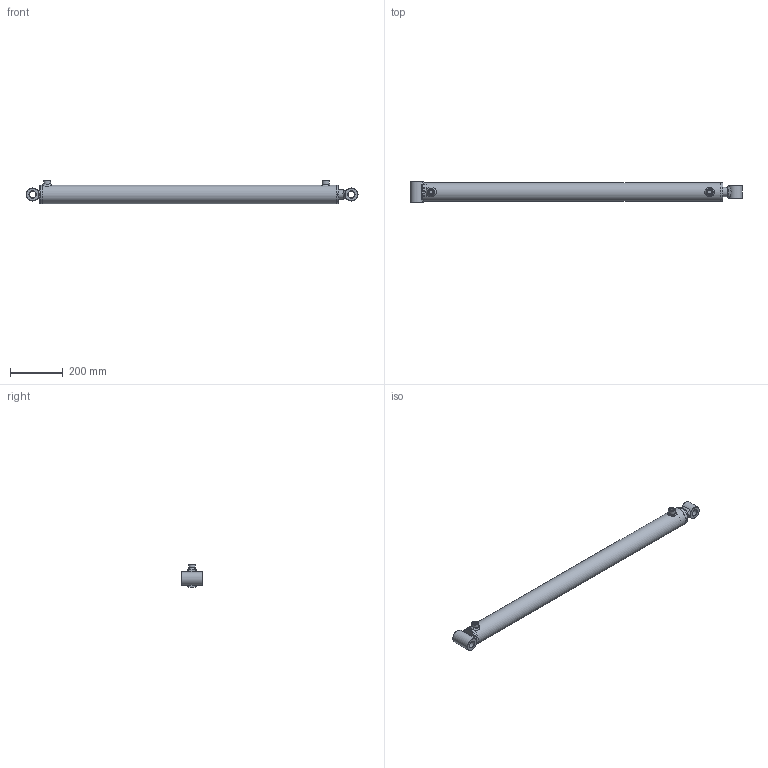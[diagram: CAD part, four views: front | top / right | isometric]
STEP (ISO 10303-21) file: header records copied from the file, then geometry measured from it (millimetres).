
FILE_DESCRIPTION( ( 'Unknown' ), '1' );
FILE_NAME( 'E:/LIBRERIA_3d/CILINDRI/HM2/HM23351000.stp', 'Unknown', ( 'Unknown' ), ( 'Unknown' ), 'PSStep 17.0.49', 'Unknown', ' ' );
FILE_SCHEMA( ( 'AUTOMOTIVE_DESIGN { 1 0 10303 214 1 1 1 1 }' ) );
Length unit declared in the file: millimetre
Products named in the file (26): CT00060020; STL3501000-oa6; Saldatura d'angolo 1-oa4; FTM3501000-oa5; CBSC220600; CG07006035; HM03351000; Saldatura con preparazione 1-oa2; Saldatura d'angolo 1-oa3; CF00060070; CBS0600000; CDA0002015; APG0600000; SBL3531000; Assem1; CB25050050; CB25050080; Saldatura d'angolo 1-oa0; Saldatura d'angolo 2-oa1
Assembly tree (18 placements, depth 4):
  Saldatura d'angolo 1-oa4
  Saldatura d'angolo 1-oa4
  Saldatura d'angolo 1-oa3
  Saldatura d'angolo 1-oa3
  Assem1
    CB25050050
    CB25050080
    HM03351000
      Saldatura con preparazione 1-oa2
      Saldatura con preparazione 1-oa2
      CF00060070
      CBS0600000
      CDA0002015
      APG0600000  x2
      SBL3531000
      CT00060020
        CT00060020
      STL3501000-oa6
        FTM3501000-oa5
        CBSC220600
      CG07006035
        CG07006035
Bounding box: 1260 x 80 x 89 mm (x, y, z)
Volume: 2652925.6 mm3; surface area: 711724.6 mm2
Topology: 22 solids, 22 shells, 301 faces, 603 edges, 351 vertices
Faces by surface type: bspline 90, plane 74, cylinder 59, cone 40, torus 38
Full cylindrical faces by diameter (mm): 4.25 x1, 5 x2, 6 x2, 7 x2, 14.95 x2, 16 x2, 16.6 x2, 19.4 x1, 20 x5, 22 x2, 24.5 x1, 25.25 x2, 26 x2, 30 x1, 35 x4, 37 x1, 38 x1, 43.6 x1, 44 x1, 45 x1, 50 x2, 55 x1, 55.39 x2, 58.65 x2, 59.9 x1, 60 x1, 60.3 x1, 60.5 x1, 60.6 x1, 61 x1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
Entity records: 19384 total; most frequent: CARTESIAN_POINT 12216, DIRECTION 850, ORIENTED_EDGE 812, EDGE_LOOP 470, AXIS2_PLACEMENT_3D 407, EDGE_CURVE 406, FACE_OUTER_BOUND 388, VERTEX_POINT 301
